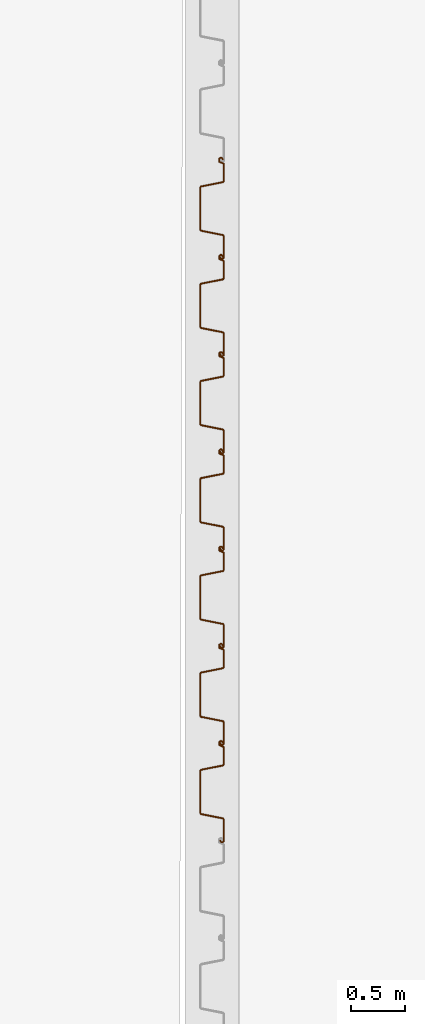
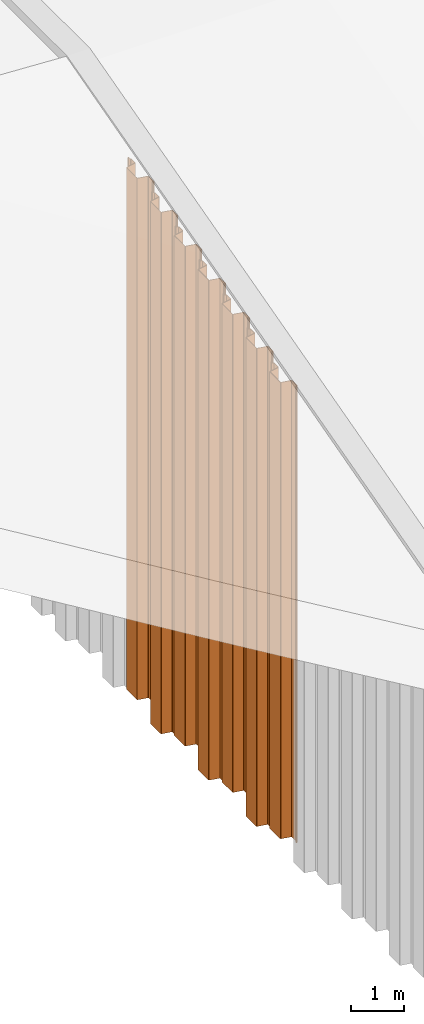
# One storey, part 9 of 32: 7 proxies.
"""IFC2X3 building model written with IfcOpenShell, lengths in millimetres."""

from ifc_helpers import new_model, entity, si_unit, converted_unit, derived_unit, direction, frame, frame_2d, origin, place, context, subcontext, project, spatial, polyline, circle_curve, parameter, trimmed, segment, composite_curve, outline, extrude, source, transform, mapped, type_object, type_shapes, element, save


model = new_model("IFC2X3")

# Units and contexts
model_context = context("Model", 3, precision=0.01, world=origin(), true_north=direction((6.12303176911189e-17, 1.0)))
body_context = subcontext(model_context, "Body", "Model", "MODEL_VIEW")
ifc_project = project(units=[si_unit("LENGTHUNIT", "METRE", prefix="MILLI"), si_unit("AREAUNIT", "SQUARE_METRE"), si_unit("VOLUMEUNIT", "CUBIC_METRE"), converted_unit("PLANEANGLEUNIT", "DEGREE", entity("IfcRatioMeasure", 0.0174532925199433), si_unit("PLANEANGLEUNIT", "RADIAN"), dimensions=[0, 0, 0, 0, 0, 0, 0]), si_unit("MASSUNIT", "GRAM", prefix="KILO"), derived_unit("MASSDENSITYUNIT", [(si_unit("MASSUNIT", "GRAM", prefix="KILO"), 1), (si_unit("LENGTHUNIT", "METRE"), -3)]), si_unit("TIMEUNIT", "SECOND"), si_unit("FREQUENCYUNIT", "HERTZ"), si_unit("THERMODYNAMICTEMPERATUREUNIT", "DEGREE_CELSIUS"), derived_unit("THERMALTRANSMITTANCEUNIT", [(si_unit("MASSUNIT", "GRAM", prefix="KILO"), 1), (si_unit("THERMODYNAMICTEMPERATUREUNIT", "KELVIN"), -1), (si_unit("TIMEUNIT", "SECOND"), -3)]), derived_unit("VOLUMETRICFLOWRATEUNIT", [(si_unit("LENGTHUNIT", "METRE"), 3), (si_unit("TIMEUNIT", "SECOND"), -1)]), si_unit("ELECTRICCURRENTUNIT", "AMPERE"), si_unit("ELECTRICVOLTAGEUNIT", "VOLT"), si_unit("POWERUNIT", "WATT"), si_unit("FORCEUNIT", "NEWTON", prefix="KILO"), si_unit("ILLUMINANCEUNIT", "LUX"), si_unit("LUMINOUSFLUXUNIT", "LUMEN"), si_unit("LUMINOUSINTENSITYUNIT", "CANDELA"), derived_unit("USERDEFINED", [(si_unit("MASSUNIT", "GRAM", prefix="KILO"), -1), (si_unit("LENGTHUNIT", "METRE"), -2), (si_unit("TIMEUNIT", "SECOND"), 3), (si_unit("LUMINOUSFLUXUNIT", "LUMEN"), 1)]), derived_unit("LINEARVELOCITYUNIT", [(si_unit("LENGTHUNIT", "METRE"), 1), (si_unit("TIMEUNIT", "SECOND"), -1)]), si_unit("PRESSUREUNIT", "PASCAL"), derived_unit("USERDEFINED", [(si_unit("LENGTHUNIT", "METRE"), -2), (si_unit("MASSUNIT", "GRAM", prefix="KILO"), 1), (si_unit("TIMEUNIT", "SECOND"), -2)])], contexts=[model_context])

# Site, building, storey
site_placement = place(None, origin())
site = spatial("IfcSite", under=ifc_project, at=site_placement, Name="Default", CompositionType="ELEMENT")
building_placement = place(site_placement, origin())
building = spatial("IfcBuilding", under=site, at=building_placement, CompositionType="ELEMENT")
storey_placement = place(building_placement, origin())
storey = spatial("IfcBuildingStorey", under=building, at=storey_placement, Name="矢板", CompositionType="ELEMENT", Elevation=0.0)

# Proxies
building_element_proxy_type_1 = type_object("IfcBuildingElementProxyType", Name="鋼矢板10H型", PredefinedType="NOTDEFINED")
shared_shape_1 = source(origin(), body_context, "Body", "SweptSolid", [
    extrude(outline(composite_curve([segment(trimmed(circle_curve(frame_2d((85.3662976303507, 306.644432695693), x_axis=(0.422618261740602, 0.906307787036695)), 13.885714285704), [parameter(24.9999999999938)], [parameter(90.0000000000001)], True, "PARAMETER"), True, "CONTINUOUS"), segment(polyline([(72.7815666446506, 312.512789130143), (9.8129512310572, 177.476157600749)]), True, "CONTINUOUS"), segment(trimmed(circle_curve(frame_2d((29.3891994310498, 168.347603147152), x_axis=(0.422618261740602, 0.906307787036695)), 21.6), [parameter(90.0000000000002)], [parameter(168.69006752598)], True, "PARAMETER"), True, "CONTINUOUS"), segment(polyline([(16.598697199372, 150.941769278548), (175.329723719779, 34.2998683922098)]), True, "CONTINUOUS"), segment(trimmed(circle_curve(frame_2d((168.93447260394, 25.596951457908), x_axis=(0.422618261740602, 0.906307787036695)), 10.7999999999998), [parameter(270.0)], [parameter(348.690067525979)], True, "PARAMETER"), False, "CONTINUOUS"), segment(polyline([(178.722596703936, 21.0326742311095), (18.2974003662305, -323.000269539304)]), True, "CONTINUOUS"), segment(trimmed(circle_curve(frame_2d((8.50927626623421, -318.435992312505), x_axis=(0.422618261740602, 0.906307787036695)), 10.8), [parameter(191.30993247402)], [parameter(269.999999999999)], True, "PARAMETER"), False, "CONTINUOUS"), segment(polyline([(5.95324328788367, -328.929166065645), (-185.429973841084, -282.310113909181)]), True, "CONTINUOUS"), segment(trimmed(circle_curve(frame_2d((-190.542039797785, -303.296461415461), x_axis=(0.422618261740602, 0.906307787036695)), 21.6000000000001), [parameter(11.3099324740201)], [parameter(90.0000000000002)], True, "PARAMETER"), True, "CONTINUOUS"), segment(polyline([(-210.118287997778, -294.167906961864), (-290.330886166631, -466.184378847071)]), True, "CONTINUOUS"), segment(trimmed(circle_curve(frame_2d((-270.754637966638, -475.312933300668), x_axis=(0.422618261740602, 0.906307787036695)), 21.6), [parameter(90.0000000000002)], [parameter(269.999999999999)], True, "PARAMETER"), True, "CONTINUOUS"), segment(polyline([(-251.178389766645, -484.441487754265), (-249.065298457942, -479.909948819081)]), True, "CONTINUOUS"), segment(polyline([(-249.065298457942, -479.909948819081), (-258.853422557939, -475.345671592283)]), True, "CONTINUOUS"), segment(polyline([(-258.853422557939, -475.345671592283), (-260.966513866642, -479.877210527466)]), True, "CONTINUOUS"), segment(trimmed(circle_curve(frame_2d((-270.754637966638, -475.312933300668), x_axis=(0.422618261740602, 0.906307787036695)), 10.8), [parameter(90.0000000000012)], [parameter(270.0)], True, "PARAMETER"), False, "CONTINUOUS"), segment(polyline([(-280.542762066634, -470.748656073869), (-200.330163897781, -298.732184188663)]), True, "CONTINUOUS"), segment(trimmed(circle_curve(frame_2d((-190.542039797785, -303.296461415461), x_axis=(0.422618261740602, 0.906307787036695)), 10.8), [parameter(11.3099324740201)], [parameter(89.9999999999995)], True, "PARAMETER"), False, "CONTINUOUS"), segment(polyline([(-187.986006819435, -292.803287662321), (3.39721030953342, -339.422339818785)]), True, "CONTINUOUS"), segment(trimmed(circle_curve(frame_2d((8.50927626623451, -318.435992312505), x_axis=(0.422618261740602, 0.906307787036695)), 21.6), [parameter(191.30993247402)], [parameter(270.0)], True, "PARAMETER"), True, "CONTINUOUS"), segment(polyline([(28.0855244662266, -327.564546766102), (188.510720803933, 16.4683970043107)]), True, "CONTINUOUS"), segment(trimmed(circle_curve(frame_2d((168.93447260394, 25.5969514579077), x_axis=(0.422618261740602, 0.906307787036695)), 21.6), [parameter(270.0)], [parameter(348.69006752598)], True, "PARAMETER"), True, "CONTINUOUS"), segment(polyline([(181.724974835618, 43.0027853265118), (22.9939483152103, 159.644686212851)]), True, "CONTINUOUS"), segment(trimmed(circle_curve(frame_2d((29.3891994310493, 168.347603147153), x_axis=(0.422618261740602, 0.906307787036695)), 10.7999999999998), [parameter(89.9999999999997)], [parameter(168.690067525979)], True, "PARAMETER"), False, "CONTINUOUS"), segment(polyline([(19.6010753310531, 172.911880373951), (82.5696907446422, 307.948511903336)]), True, "CONTINUOUS"), segment(trimmed(circle_curve(frame_2d((85.3662976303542, 306.64443269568), x_axis=(0.422618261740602, 0.906307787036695)), 3.08571428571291), [parameter(25.0000000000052)], [parameter(90.0000000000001)], True, "PARAMETER"), False, "CONTINUOUS"), segment(polyline([(85.3662976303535, 309.730146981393), (122.220231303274, 309.730146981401)]), True, "CONTINUOUS"), segment(trimmed(circle_curve(frame_2d((122.220231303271, 323.615861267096), x_axis=(0.422618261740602, 0.906307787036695)), 13.8857142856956), [parameter(205.000000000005)], [parameter(270.0)], True, "PARAMETER"), True, "CONTINUOUS"), segment(polyline([(134.804962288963, 317.747504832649), (141.079261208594, 331.202782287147)]), True, "CONTINUOUS"), segment(trimmed(circle_curve(frame_2d((121.503013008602, 340.331336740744), x_axis=(0.422618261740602, 0.906307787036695)), 21.6), [parameter(270.0)], [parameter(90.0000000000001)], True, "PARAMETER"), True, "CONTINUOUS"), segment(polyline([(101.926764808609, 349.459891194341), (99.8136734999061, 344.928352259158)]), True, "CONTINUOUS"), segment(polyline([(99.8136734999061, 344.928352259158), (109.601797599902, 340.364075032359)]), True, "CONTINUOUS"), segment(polyline([(109.601797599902, 340.364075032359), (111.714888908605, 344.895613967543)]), True, "CONTINUOUS"), segment(trimmed(circle_curve(frame_2d((121.503013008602, 340.331336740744), x_axis=(0.422618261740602, 0.906307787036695)), 10.8), [parameter(270.0)], [parameter(89.9999999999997)], True, "PARAMETER"), False, "CONTINUOUS"), segment(polyline([(131.291137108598, 335.767059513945), (125.01683818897, 322.311782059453)]), True, "CONTINUOUS"), segment(trimmed(circle_curve(frame_2d((122.220231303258, 323.615861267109), x_axis=(0.422618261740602, 0.906307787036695)), 3.08571428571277), [parameter(204.999999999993)], [parameter(270.0)], True, "PARAMETER"), False, "CONTINUOUS"), segment(polyline([(122.220231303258, 320.530146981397), (85.3662976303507, 320.530146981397)]), True, "CONTINUOUS")], self_intersect=False)), frame((95.205667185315, -48.8888888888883, -10500.0), z_axis=(0.0, 0.0, -1.0), x_axis=(0.4226182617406, 0.906307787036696, 0.0)), (0.0, 0.0, -1.0), 10500.0),
])
type_shapes(building_element_proxy_type_1, [shared_shape_1])
proxy_placement = place(storey_placement, frame((-128208.0, -6949.0, 12739.0), z_axis=(0.0, 0.0, 1.0), x_axis=(0.0, 1.0, 0.0)))
element("IfcBuildingElementProxy", 1, at=proxy_placement, inside=storey, type_object=building_element_proxy_type_1, Name="鋼矢板10H型:鋼矢板10H型", ObjectType="鋼矢板10H型:鋼矢板10H型", context=body_context, shape_type="MappedRepresentation", body=[
    mapped(shared_shape_1, transform((0.0, 0.0, 0.0), scale=1.0)),
])
building_element_proxy_type_2 = type_object("IfcBuildingElementProxyType", Name="鋼矢板10H型", PredefinedType="NOTDEFINED")
shared_shape_2 = source(origin(), body_context, "Body", "SweptSolid", [
    extrude(outline(composite_curve([segment(trimmed(circle_curve(frame_2d((85.3662976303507, 306.644432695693), x_axis=(0.422618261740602, 0.906307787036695)), 13.885714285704), [parameter(24.9999999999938)], [parameter(90.0000000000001)], True, "PARAMETER"), True, "CONTINUOUS"), segment(polyline([(72.7815666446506, 312.512789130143), (9.8129512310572, 177.476157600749)]), True, "CONTINUOUS"), segment(trimmed(circle_curve(frame_2d((29.3891994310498, 168.347603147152), x_axis=(0.422618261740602, 0.906307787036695)), 21.6), [parameter(90.0000000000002)], [parameter(168.69006752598)], True, "PARAMETER"), True, "CONTINUOUS"), segment(polyline([(16.598697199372, 150.941769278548), (175.329723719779, 34.2998683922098)]), True, "CONTINUOUS"), segment(trimmed(circle_curve(frame_2d((168.93447260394, 25.596951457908), x_axis=(0.422618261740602, 0.906307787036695)), 10.7999999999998), [parameter(270.0)], [parameter(348.690067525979)], True, "PARAMETER"), False, "CONTINUOUS"), segment(polyline([(178.722596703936, 21.0326742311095), (18.2974003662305, -323.000269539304)]), True, "CONTINUOUS"), segment(trimmed(circle_curve(frame_2d((8.50927626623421, -318.435992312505), x_axis=(0.422618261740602, 0.906307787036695)), 10.8), [parameter(191.30993247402)], [parameter(269.999999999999)], True, "PARAMETER"), False, "CONTINUOUS"), segment(polyline([(5.95324328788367, -328.929166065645), (-185.429973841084, -282.310113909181)]), True, "CONTINUOUS"), segment(trimmed(circle_curve(frame_2d((-190.542039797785, -303.296461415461), x_axis=(0.422618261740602, 0.906307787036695)), 21.6000000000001), [parameter(11.3099324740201)], [parameter(90.0000000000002)], True, "PARAMETER"), True, "CONTINUOUS"), segment(polyline([(-210.118287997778, -294.167906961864), (-290.330886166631, -466.184378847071)]), True, "CONTINUOUS"), segment(trimmed(circle_curve(frame_2d((-270.754637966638, -475.312933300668), x_axis=(0.422618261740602, 0.906307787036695)), 21.6), [parameter(90.0000000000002)], [parameter(269.999999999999)], True, "PARAMETER"), True, "CONTINUOUS"), segment(polyline([(-251.178389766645, -484.441487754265), (-249.065298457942, -479.909948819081)]), True, "CONTINUOUS"), segment(polyline([(-249.065298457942, -479.909948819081), (-258.853422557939, -475.345671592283)]), True, "CONTINUOUS"), segment(polyline([(-258.853422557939, -475.345671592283), (-260.966513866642, -479.877210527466)]), True, "CONTINUOUS"), segment(trimmed(circle_curve(frame_2d((-270.754637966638, -475.312933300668), x_axis=(0.422618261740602, 0.906307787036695)), 10.8), [parameter(90.0000000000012)], [parameter(270.0)], True, "PARAMETER"), False, "CONTINUOUS"), segment(polyline([(-280.542762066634, -470.748656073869), (-200.330163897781, -298.732184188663)]), True, "CONTINUOUS"), segment(trimmed(circle_curve(frame_2d((-190.542039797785, -303.296461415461), x_axis=(0.422618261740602, 0.906307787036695)), 10.8), [parameter(11.3099324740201)], [parameter(89.9999999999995)], True, "PARAMETER"), False, "CONTINUOUS"), segment(polyline([(-187.986006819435, -292.803287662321), (3.39721030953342, -339.422339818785)]), True, "CONTINUOUS"), segment(trimmed(circle_curve(frame_2d((8.50927626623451, -318.435992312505), x_axis=(0.422618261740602, 0.906307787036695)), 21.6), [parameter(191.30993247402)], [parameter(270.0)], True, "PARAMETER"), True, "CONTINUOUS"), segment(polyline([(28.0855244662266, -327.564546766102), (188.510720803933, 16.4683970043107)]), True, "CONTINUOUS"), segment(trimmed(circle_curve(frame_2d((168.93447260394, 25.5969514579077), x_axis=(0.422618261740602, 0.906307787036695)), 21.6), [parameter(270.0)], [parameter(348.69006752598)], True, "PARAMETER"), True, "CONTINUOUS"), segment(polyline([(181.724974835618, 43.0027853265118), (22.9939483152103, 159.644686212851)]), True, "CONTINUOUS"), segment(trimmed(circle_curve(frame_2d((29.3891994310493, 168.347603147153), x_axis=(0.422618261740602, 0.906307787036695)), 10.7999999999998), [parameter(89.9999999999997)], [parameter(168.690067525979)], True, "PARAMETER"), False, "CONTINUOUS"), segment(polyline([(19.6010753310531, 172.911880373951), (82.5696907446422, 307.948511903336)]), True, "CONTINUOUS"), segment(trimmed(circle_curve(frame_2d((85.3662976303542, 306.64443269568), x_axis=(0.422618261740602, 0.906307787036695)), 3.08571428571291), [parameter(25.0000000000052)], [parameter(90.0000000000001)], True, "PARAMETER"), False, "CONTINUOUS"), segment(polyline([(85.3662976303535, 309.730146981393), (122.220231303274, 309.730146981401)]), True, "CONTINUOUS"), segment(trimmed(circle_curve(frame_2d((122.220231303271, 323.615861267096), x_axis=(0.422618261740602, 0.906307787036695)), 13.8857142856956), [parameter(205.000000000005)], [parameter(270.0)], True, "PARAMETER"), True, "CONTINUOUS"), segment(polyline([(134.804962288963, 317.747504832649), (141.079261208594, 331.202782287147)]), True, "CONTINUOUS"), segment(trimmed(circle_curve(frame_2d((121.503013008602, 340.331336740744), x_axis=(0.422618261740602, 0.906307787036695)), 21.6), [parameter(270.0)], [parameter(90.0000000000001)], True, "PARAMETER"), True, "CONTINUOUS"), segment(polyline([(101.926764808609, 349.459891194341), (99.8136734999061, 344.928352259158)]), True, "CONTINUOUS"), segment(polyline([(99.8136734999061, 344.928352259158), (109.601797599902, 340.364075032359)]), True, "CONTINUOUS"), segment(polyline([(109.601797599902, 340.364075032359), (111.714888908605, 344.895613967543)]), True, "CONTINUOUS"), segment(trimmed(circle_curve(frame_2d((121.503013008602, 340.331336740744), x_axis=(0.422618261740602, 0.906307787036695)), 10.8), [parameter(270.0)], [parameter(89.9999999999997)], True, "PARAMETER"), False, "CONTINUOUS"), segment(polyline([(131.291137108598, 335.767059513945), (125.01683818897, 322.311782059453)]), True, "CONTINUOUS"), segment(trimmed(circle_curve(frame_2d((122.220231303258, 323.615861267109), x_axis=(0.422618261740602, 0.906307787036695)), 3.08571428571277), [parameter(204.999999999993)], [parameter(270.0)], True, "PARAMETER"), False, "CONTINUOUS"), segment(polyline([(122.220231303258, 320.530146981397), (85.3662976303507, 320.530146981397)]), True, "CONTINUOUS")], self_intersect=False)), frame((95.205667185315, -48.8888888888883, -11000.0), z_axis=(0.0, 0.0, -1.0), x_axis=(0.4226182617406, 0.906307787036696, 0.0)), (0.0, 0.0, -1.0), 11000.0),
])
type_shapes(building_element_proxy_type_2, [shared_shape_2])
for number, where, z_axis, x_axis in (
    (2, (-128208.0, -5149.0, 13214.0), (0.0, 0.0, 1.0), (0.0, 1.0, 0.0)),
    (3, (-128208.0, -6049.0, 12977.0), (0.0, 0.0, 1.0), (0.0, 1.0, 0.0)),
):
    element("IfcBuildingElementProxy", number, at=place(storey_placement, frame(where, z_axis=z_axis, x_axis=x_axis)), inside=storey, type_object=building_element_proxy_type_2, Name="鋼矢板10H型:鋼矢板10H型", ObjectType="鋼矢板10H型:鋼矢板10H型", context=body_context, shape_type="MappedRepresentation", body=[
        mapped(shared_shape_2, transform((0.0, 0.0, 0.0), scale=1.0)),
    ])
building_element_proxy_type_3 = type_object("IfcBuildingElementProxyType", Name="鋼矢板10H型", PredefinedType="NOTDEFINED")
shared_shape_3 = source(origin(), body_context, "Body", "SweptSolid", [
    extrude(outline(composite_curve([segment(trimmed(circle_curve(frame_2d((85.3662976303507, 306.644432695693), x_axis=(0.422618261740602, 0.906307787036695)), 13.885714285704), [parameter(24.9999999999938)], [parameter(90.0000000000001)], True, "PARAMETER"), True, "CONTINUOUS"), segment(polyline([(72.7815666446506, 312.512789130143), (9.8129512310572, 177.476157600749)]), True, "CONTINUOUS"), segment(trimmed(circle_curve(frame_2d((29.3891994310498, 168.347603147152), x_axis=(0.422618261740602, 0.906307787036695)), 21.6), [parameter(90.0000000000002)], [parameter(168.69006752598)], True, "PARAMETER"), True, "CONTINUOUS"), segment(polyline([(16.598697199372, 150.941769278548), (175.329723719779, 34.2998683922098)]), True, "CONTINUOUS"), segment(trimmed(circle_curve(frame_2d((168.93447260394, 25.596951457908), x_axis=(0.422618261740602, 0.906307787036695)), 10.7999999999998), [parameter(270.0)], [parameter(348.690067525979)], True, "PARAMETER"), False, "CONTINUOUS"), segment(polyline([(178.722596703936, 21.0326742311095), (18.2974003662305, -323.000269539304)]), True, "CONTINUOUS"), segment(trimmed(circle_curve(frame_2d((8.50927626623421, -318.435992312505), x_axis=(0.422618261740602, 0.906307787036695)), 10.8), [parameter(191.30993247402)], [parameter(269.999999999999)], True, "PARAMETER"), False, "CONTINUOUS"), segment(polyline([(5.95324328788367, -328.929166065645), (-185.429973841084, -282.310113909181)]), True, "CONTINUOUS"), segment(trimmed(circle_curve(frame_2d((-190.542039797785, -303.296461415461), x_axis=(0.422618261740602, 0.906307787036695)), 21.6000000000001), [parameter(11.3099324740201)], [parameter(90.0000000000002)], True, "PARAMETER"), True, "CONTINUOUS"), segment(polyline([(-210.118287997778, -294.167906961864), (-290.330886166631, -466.184378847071)]), True, "CONTINUOUS"), segment(trimmed(circle_curve(frame_2d((-270.754637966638, -475.312933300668), x_axis=(0.422618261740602, 0.906307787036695)), 21.6), [parameter(90.0000000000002)], [parameter(269.999999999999)], True, "PARAMETER"), True, "CONTINUOUS"), segment(polyline([(-251.178389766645, -484.441487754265), (-249.065298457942, -479.909948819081)]), True, "CONTINUOUS"), segment(polyline([(-249.065298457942, -479.909948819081), (-258.853422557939, -475.345671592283)]), True, "CONTINUOUS"), segment(polyline([(-258.853422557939, -475.345671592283), (-260.966513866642, -479.877210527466)]), True, "CONTINUOUS"), segment(trimmed(circle_curve(frame_2d((-270.754637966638, -475.312933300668), x_axis=(0.422618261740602, 0.906307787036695)), 10.8), [parameter(90.0000000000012)], [parameter(270.0)], True, "PARAMETER"), False, "CONTINUOUS"), segment(polyline([(-280.542762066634, -470.748656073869), (-200.330163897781, -298.732184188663)]), True, "CONTINUOUS"), segment(trimmed(circle_curve(frame_2d((-190.542039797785, -303.296461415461), x_axis=(0.422618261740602, 0.906307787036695)), 10.8), [parameter(11.3099324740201)], [parameter(89.9999999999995)], True, "PARAMETER"), False, "CONTINUOUS"), segment(polyline([(-187.986006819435, -292.803287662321), (3.39721030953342, -339.422339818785)]), True, "CONTINUOUS"), segment(trimmed(circle_curve(frame_2d((8.50927626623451, -318.435992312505), x_axis=(0.422618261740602, 0.906307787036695)), 21.6), [parameter(191.30993247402)], [parameter(270.0)], True, "PARAMETER"), True, "CONTINUOUS"), segment(polyline([(28.0855244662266, -327.564546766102), (188.510720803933, 16.4683970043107)]), True, "CONTINUOUS"), segment(trimmed(circle_curve(frame_2d((168.93447260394, 25.5969514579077), x_axis=(0.422618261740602, 0.906307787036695)), 21.6), [parameter(270.0)], [parameter(348.69006752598)], True, "PARAMETER"), True, "CONTINUOUS"), segment(polyline([(181.724974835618, 43.0027853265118), (22.9939483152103, 159.644686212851)]), True, "CONTINUOUS"), segment(trimmed(circle_curve(frame_2d((29.3891994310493, 168.347603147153), x_axis=(0.422618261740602, 0.906307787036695)), 10.7999999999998), [parameter(89.9999999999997)], [parameter(168.690067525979)], True, "PARAMETER"), False, "CONTINUOUS"), segment(polyline([(19.6010753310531, 172.911880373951), (82.5696907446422, 307.948511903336)]), True, "CONTINUOUS"), segment(trimmed(circle_curve(frame_2d((85.3662976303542, 306.64443269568), x_axis=(0.422618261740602, 0.906307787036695)), 3.08571428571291), [parameter(25.0000000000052)], [parameter(90.0000000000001)], True, "PARAMETER"), False, "CONTINUOUS"), segment(polyline([(85.3662976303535, 309.730146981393), (122.220231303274, 309.730146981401)]), True, "CONTINUOUS"), segment(trimmed(circle_curve(frame_2d((122.220231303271, 323.615861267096), x_axis=(0.422618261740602, 0.906307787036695)), 13.8857142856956), [parameter(205.000000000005)], [parameter(270.0)], True, "PARAMETER"), True, "CONTINUOUS"), segment(polyline([(134.804962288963, 317.747504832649), (141.079261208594, 331.202782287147)]), True, "CONTINUOUS"), segment(trimmed(circle_curve(frame_2d((121.503013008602, 340.331336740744), x_axis=(0.422618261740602, 0.906307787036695)), 21.6), [parameter(270.0)], [parameter(90.0000000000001)], True, "PARAMETER"), True, "CONTINUOUS"), segment(polyline([(101.926764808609, 349.459891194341), (99.8136734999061, 344.928352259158)]), True, "CONTINUOUS"), segment(polyline([(99.8136734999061, 344.928352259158), (109.601797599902, 340.364075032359)]), True, "CONTINUOUS"), segment(polyline([(109.601797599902, 340.364075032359), (111.714888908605, 344.895613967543)]), True, "CONTINUOUS"), segment(trimmed(circle_curve(frame_2d((121.503013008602, 340.331336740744), x_axis=(0.422618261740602, 0.906307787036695)), 10.8), [parameter(270.0)], [parameter(89.9999999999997)], True, "PARAMETER"), False, "CONTINUOUS"), segment(polyline([(131.291137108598, 335.767059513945), (125.01683818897, 322.311782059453)]), True, "CONTINUOUS"), segment(trimmed(circle_curve(frame_2d((122.220231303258, 323.615861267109), x_axis=(0.422618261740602, 0.906307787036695)), 3.08571428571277), [parameter(204.999999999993)], [parameter(270.0)], True, "PARAMETER"), False, "CONTINUOUS"), segment(polyline([(122.220231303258, 320.530146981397), (85.3662976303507, 320.530146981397)]), True, "CONTINUOUS")], self_intersect=False)), frame((95.205667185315, -48.8888888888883, -11500.0), z_axis=(0.0, 0.0, -1.0), x_axis=(0.4226182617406, 0.906307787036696, 0.0)), (0.0, 0.0, -1.0), 11500.0),
])
type_shapes(building_element_proxy_type_3, [shared_shape_3])
for number, where, z_axis, x_axis in (
    (4, (-128208.0, -3349.0, 13688.0), (0.0, 0.0, 1.0), (0.0, 1.0, 0.0)),
    (5, (-128208.0, -4249.0, 13451.0), (0.0, 0.0, 1.0), (0.0, 1.0, 0.0)),
):
    element("IfcBuildingElementProxy", number, at=place(storey_placement, frame(where, z_axis=z_axis, x_axis=x_axis)), inside=storey, type_object=building_element_proxy_type_3, Name="鋼矢板10H型:鋼矢板10H型", ObjectType="鋼矢板10H型:鋼矢板10H型", context=body_context, shape_type="MappedRepresentation", body=[
        mapped(shared_shape_3, transform((0.0, 0.0, 0.0), scale=1.0)),
    ])
building_element_proxy_type_4 = type_object("IfcBuildingElementProxyType", Name="鋼矢板10H型", PredefinedType="NOTDEFINED")
shared_shape_4 = source(origin(), body_context, "Body", "SweptSolid", [
    extrude(outline(composite_curve([segment(trimmed(circle_curve(frame_2d((85.3662976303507, 306.644432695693), x_axis=(0.422618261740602, 0.906307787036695)), 13.885714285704), [parameter(24.9999999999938)], [parameter(90.0000000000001)], True, "PARAMETER"), True, "CONTINUOUS"), segment(polyline([(72.7815666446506, 312.512789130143), (9.8129512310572, 177.476157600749)]), True, "CONTINUOUS"), segment(trimmed(circle_curve(frame_2d((29.3891994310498, 168.347603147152), x_axis=(0.422618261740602, 0.906307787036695)), 21.6), [parameter(90.0000000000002)], [parameter(168.69006752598)], True, "PARAMETER"), True, "CONTINUOUS"), segment(polyline([(16.598697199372, 150.941769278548), (175.329723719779, 34.2998683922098)]), True, "CONTINUOUS"), segment(trimmed(circle_curve(frame_2d((168.93447260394, 25.596951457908), x_axis=(0.422618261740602, 0.906307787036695)), 10.7999999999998), [parameter(270.0)], [parameter(348.690067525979)], True, "PARAMETER"), False, "CONTINUOUS"), segment(polyline([(178.722596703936, 21.0326742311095), (18.2974003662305, -323.000269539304)]), True, "CONTINUOUS"), segment(trimmed(circle_curve(frame_2d((8.50927626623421, -318.435992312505), x_axis=(0.422618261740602, 0.906307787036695)), 10.8), [parameter(191.30993247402)], [parameter(269.999999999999)], True, "PARAMETER"), False, "CONTINUOUS"), segment(polyline([(5.95324328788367, -328.929166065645), (-185.429973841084, -282.310113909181)]), True, "CONTINUOUS"), segment(trimmed(circle_curve(frame_2d((-190.542039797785, -303.296461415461), x_axis=(0.422618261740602, 0.906307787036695)), 21.6000000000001), [parameter(11.3099324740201)], [parameter(90.0000000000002)], True, "PARAMETER"), True, "CONTINUOUS"), segment(polyline([(-210.118287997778, -294.167906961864), (-290.330886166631, -466.184378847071)]), True, "CONTINUOUS"), segment(trimmed(circle_curve(frame_2d((-270.754637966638, -475.312933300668), x_axis=(0.422618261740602, 0.906307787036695)), 21.6), [parameter(90.0000000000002)], [parameter(269.999999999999)], True, "PARAMETER"), True, "CONTINUOUS"), segment(polyline([(-251.178389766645, -484.441487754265), (-249.065298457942, -479.909948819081)]), True, "CONTINUOUS"), segment(polyline([(-249.065298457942, -479.909948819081), (-258.853422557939, -475.345671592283)]), True, "CONTINUOUS"), segment(polyline([(-258.853422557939, -475.345671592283), (-260.966513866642, -479.877210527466)]), True, "CONTINUOUS"), segment(trimmed(circle_curve(frame_2d((-270.754637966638, -475.312933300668), x_axis=(0.422618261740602, 0.906307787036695)), 10.8), [parameter(90.0000000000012)], [parameter(270.0)], True, "PARAMETER"), False, "CONTINUOUS"), segment(polyline([(-280.542762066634, -470.748656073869), (-200.330163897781, -298.732184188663)]), True, "CONTINUOUS"), segment(trimmed(circle_curve(frame_2d((-190.542039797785, -303.296461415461), x_axis=(0.422618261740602, 0.906307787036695)), 10.8), [parameter(11.3099324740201)], [parameter(89.9999999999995)], True, "PARAMETER"), False, "CONTINUOUS"), segment(polyline([(-187.986006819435, -292.803287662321), (3.39721030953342, -339.422339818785)]), True, "CONTINUOUS"), segment(trimmed(circle_curve(frame_2d((8.50927626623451, -318.435992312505), x_axis=(0.422618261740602, 0.906307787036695)), 21.6), [parameter(191.30993247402)], [parameter(270.0)], True, "PARAMETER"), True, "CONTINUOUS"), segment(polyline([(28.0855244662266, -327.564546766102), (188.510720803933, 16.4683970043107)]), True, "CONTINUOUS"), segment(trimmed(circle_curve(frame_2d((168.93447260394, 25.5969514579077), x_axis=(0.422618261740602, 0.906307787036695)), 21.6), [parameter(270.0)], [parameter(348.69006752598)], True, "PARAMETER"), True, "CONTINUOUS"), segment(polyline([(181.724974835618, 43.0027853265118), (22.9939483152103, 159.644686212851)]), True, "CONTINUOUS"), segment(trimmed(circle_curve(frame_2d((29.3891994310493, 168.347603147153), x_axis=(0.422618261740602, 0.906307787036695)), 10.7999999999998), [parameter(89.9999999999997)], [parameter(168.690067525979)], True, "PARAMETER"), False, "CONTINUOUS"), segment(polyline([(19.6010753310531, 172.911880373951), (82.5696907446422, 307.948511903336)]), True, "CONTINUOUS"), segment(trimmed(circle_curve(frame_2d((85.3662976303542, 306.64443269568), x_axis=(0.422618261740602, 0.906307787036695)), 3.08571428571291), [parameter(25.0000000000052)], [parameter(90.0000000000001)], True, "PARAMETER"), False, "CONTINUOUS"), segment(polyline([(85.3662976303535, 309.730146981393), (122.220231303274, 309.730146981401)]), True, "CONTINUOUS"), segment(trimmed(circle_curve(frame_2d((122.220231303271, 323.615861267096), x_axis=(0.422618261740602, 0.906307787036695)), 13.8857142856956), [parameter(205.000000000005)], [parameter(270.0)], True, "PARAMETER"), True, "CONTINUOUS"), segment(polyline([(134.804962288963, 317.747504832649), (141.079261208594, 331.202782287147)]), True, "CONTINUOUS"), segment(trimmed(circle_curve(frame_2d((121.503013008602, 340.331336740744), x_axis=(0.422618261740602, 0.906307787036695)), 21.6), [parameter(270.0)], [parameter(90.0000000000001)], True, "PARAMETER"), True, "CONTINUOUS"), segment(polyline([(101.926764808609, 349.459891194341), (99.8136734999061, 344.928352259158)]), True, "CONTINUOUS"), segment(polyline([(99.8136734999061, 344.928352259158), (109.601797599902, 340.364075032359)]), True, "CONTINUOUS"), segment(polyline([(109.601797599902, 340.364075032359), (111.714888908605, 344.895613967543)]), True, "CONTINUOUS"), segment(trimmed(circle_curve(frame_2d((121.503013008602, 340.331336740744), x_axis=(0.422618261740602, 0.906307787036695)), 10.8), [parameter(270.0)], [parameter(89.9999999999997)], True, "PARAMETER"), False, "CONTINUOUS"), segment(polyline([(131.291137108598, 335.767059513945), (125.01683818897, 322.311782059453)]), True, "CONTINUOUS"), segment(trimmed(circle_curve(frame_2d((122.220231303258, 323.615861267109), x_axis=(0.422618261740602, 0.906307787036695)), 3.08571428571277), [parameter(204.999999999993)], [parameter(270.0)], True, "PARAMETER"), False, "CONTINUOUS"), segment(polyline([(122.220231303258, 320.530146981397), (85.3662976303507, 320.530146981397)]), True, "CONTINUOUS")], self_intersect=False)), frame((95.205667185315, -48.8888888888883, -12000.0), z_axis=(0.0, 0.0, -1.0), x_axis=(0.4226182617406, 0.906307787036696, 0.0)), (0.0, 0.0, -1.0), 12000.0),
])
type_shapes(building_element_proxy_type_4, [shared_shape_4])
for number, where, z_axis, x_axis in (
    (6, (-128208.0, -1549.0, 14162.0), (0.0, 0.0, 1.0), (0.0, 1.0, 0.0)),
    (7, (-128208.0, -2449.0, 13925.0), (0.0, 0.0, 1.0), (0.0, 1.0, 0.0)),
):
    element("IfcBuildingElementProxy", number, at=place(storey_placement, frame(where, z_axis=z_axis, x_axis=x_axis)), inside=storey, type_object=building_element_proxy_type_4, Name="鋼矢板10H型:鋼矢板10H型", ObjectType="鋼矢板10H型:鋼矢板10H型", context=body_context, shape_type="MappedRepresentation", body=[
        mapped(shared_shape_4, transform((0.0, 0.0, 0.0), scale=1.0)),
    ])

save(model, "model.ifc")
